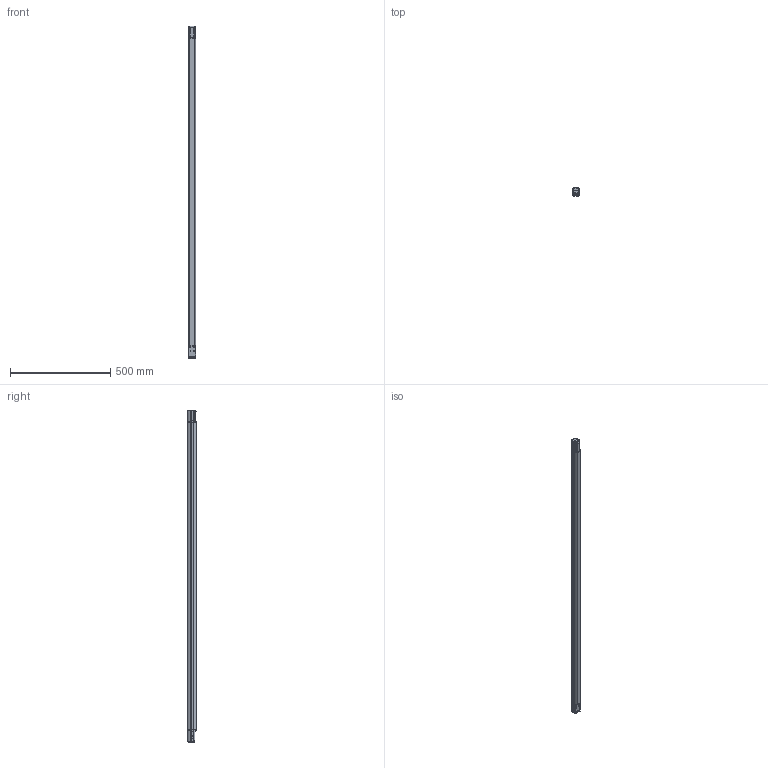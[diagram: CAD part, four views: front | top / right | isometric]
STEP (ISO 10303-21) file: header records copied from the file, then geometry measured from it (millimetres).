
FILE_DESCRIPTION(/* description */ (''),/* implementation_level */ '2;1');
FILE_NAME(/* name */ 'SH4 - 1650 mm DSD Barriera senza Smart Plug.stp',/* time_stamp */ '2022-12-02T18:35:52+01:00',/* author */ (''),/* organization */ (''),/* preprocessor_version */ 'ST-DEVELOPER v16.701',/* originating_system */ 'SIEMENS PLM Software NX 1946',/* authorisation */ '');
FILE_SCHEMA (('AP203_CONFIGURATION_CONTROLLED_3D_DESIGN_OF_MECHANICAL_PARTS_AND_ASSEMBLIES_MIM_LF { 1 0 10303 403 2 1 2}'));
Length unit declared in the file: millimetre
Products named in the file (1): MRos63D4F2E59x2g
Bounding box: 35.08 x 40 x 1659 mm (x, y, z)
Volume: 1952710 mm3; surface area: 380509.1 mm2
Topology: 6 solids, 11 shells, 891 faces, 2428 edges, 1549 vertices
Faces by surface type: plane 363, cylinder 315, bspline 92, cone 55, extrusion 24, sphere 22, torus 20
Full cylindrical faces by diameter (mm): 2.013 x4, 2.2 x4, 3 x4, 4.37 x4, 5 x8
Entity records: 34734 total; most frequent: CARTESIAN_POINT 13104, ORIENTED_EDGE 4576, DIRECTION 3865, EDGE_CURVE 2288, VERTEX_POINT 1515, AXIS2_PLACEMENT_3D 1345, VECTOR 1175, LINE 1151
